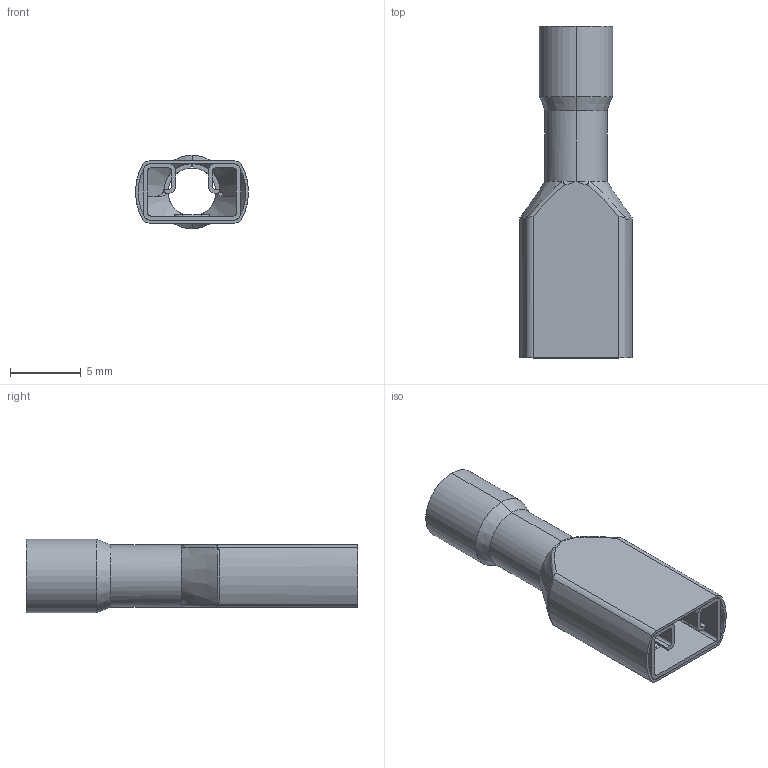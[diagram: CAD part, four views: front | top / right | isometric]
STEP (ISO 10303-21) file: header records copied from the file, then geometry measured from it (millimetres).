
FILE_DESCRIPTION (( 'STEP AP214' ), '1' );
FILE_NAME ('282898 OptiKit S-PI-PVC-5,5-6-0,4.STEP', '2020-02-19T10:52:32', ( '' ), ( '' ), 'SwSTEP 2.0', 'SolidWorks 2018', '' );
FILE_SCHEMA (( 'AUTOMOTIVE_DESIGN' ));
Length unit declared in the file: millimetre
Products named in the file (3): Îïëåòêà 5; Ðàçúåì ÐïÈìï 5,5-6-0,4; 282898 OptiKit S-PI-PVC-5,5-6-0,4
Assembly tree (2 placements, depth 2):
  282898 OptiKit S-PI-PVC-5,5-6-0,4
    Ðàçúåì ÐïÈìï 5,5-6-0,4
    Îïëåòêà 5
Bounding box: 8 x 23.5 x 5.2 mm (x, y, z)
Volume: 172.2 mm3; surface area: 1478.5 mm2
Topology: 2 solids, 2 shells, 123 faces, 325 edges, 200 vertices
Faces by surface type: cylinder 44, plane 42, bspline 20, cone 12, torus 5
Entity records: 4912 total; most frequent: CARTESIAN_POINT 1941, ORIENTED_EDGE 634, DIRECTION 564, EDGE_CURVE 317, AXIS2_PLACEMENT_3D 211, VERTEX_POINT 200, LINE 142, VECTOR 142
